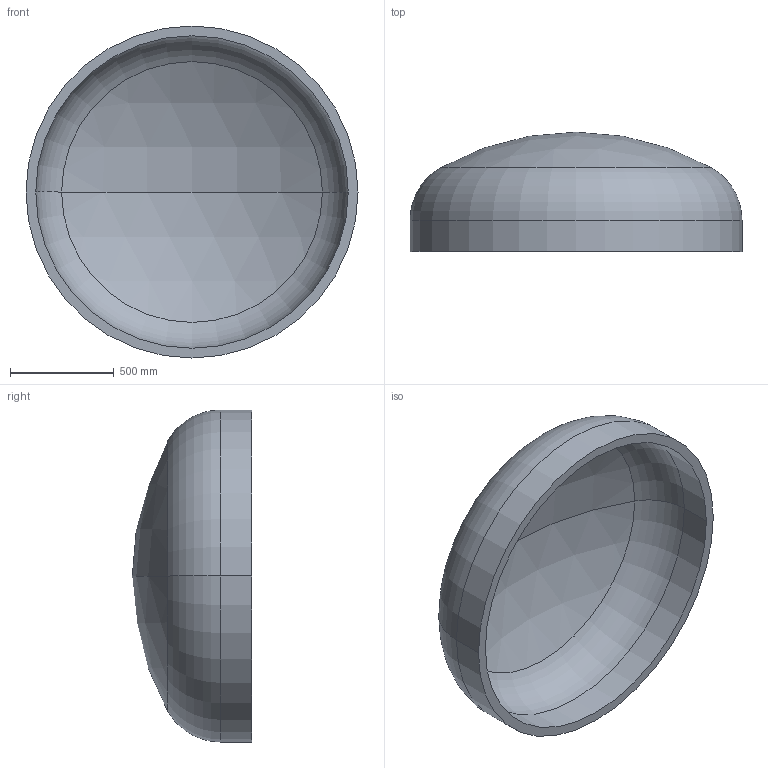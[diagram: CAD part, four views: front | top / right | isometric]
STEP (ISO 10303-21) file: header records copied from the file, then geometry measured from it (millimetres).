
FILE_DESCRIPTION (( 'STEP AP203' ), '1' );
FILE_NAME ('DIN 28013 Korbbogenform_-_Boden DIN 28013 - 1600 x 150 - I - s=47.step', '2016-07-01T11:18:32', ( '' ), ( '' ), 'SwSTEP 2.0', 'SolidWorks 2013', '' );
FILE_SCHEMA (( 'CONFIG_CONTROL_DESIGN' ));
Length unit declared in the file: millimetre
Products named in the file (1): DIN 28013 Korbbogenform_-_Boden DIN 28013 - 1600 x 150 - I - s=47
Bounding box: 1600 x 575.25 x 1600 mm (x, y, z)
Volume: 160202607 mm3; surface area: 7051064.8 mm2
Topology: 1 solids, 1 shells, 13 faces, 24 edges, 14 vertices
Faces by surface type: torus 4, cylinder 4, sphere 4, plane 1
Entity records: 407 total; most frequent: DIRECTION 72, CARTESIAN_POINT 52, ORIENTED_EDGE 48, AXIS2_PLACEMENT_3D 34, EDGE_CURVE 24, CIRCLE 20, VERTEX_POINT 14, EDGE_LOOP 14
